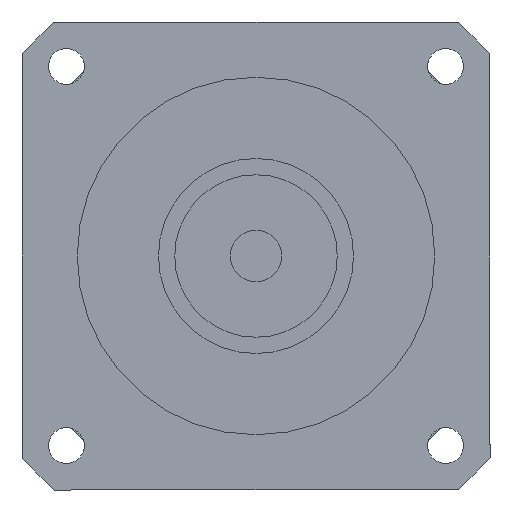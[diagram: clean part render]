
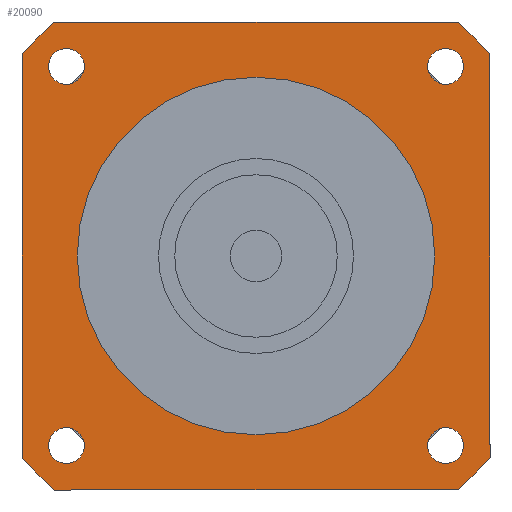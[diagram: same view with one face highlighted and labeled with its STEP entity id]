
A CAD part, left-side view. The second image highlights one B-rep face of the part: STEP entity #20090.
In plain terms, the highlighted planar face has unit normal (-1, 0, 0) as drawn and (0, 0, -1) by its records, which use the part's own axes.
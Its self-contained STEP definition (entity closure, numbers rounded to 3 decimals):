
#16050=CARTESIAN_POINT('',(72.,-61.976,-103.));
#16060=VERTEX_POINT('',#16050);
#16230=CARTESIAN_POINT('',(72.,61.976,-103.));
#16240=VERTEX_POINT('',#16230);
#16270=CARTESIAN_POINT('',(72.,-71.,-103.));
#16280=DIRECTION('',(0.,1.,0.));
#16290=VECTOR('',#16280,1000.);
#16300=LINE('',#16270,#16290);
#16310=EDGE_CURVE('',#16060,#16240,#16300,.T.);
#16450=CARTESIAN_POINT('',(61.976,-72.,-103.));
#16460=VERTEX_POINT('',#16450);
#16590=CARTESIAN_POINT('',(0.,0.,
-103.));
#16600=DIRECTION('',(0.,0.,1.));
#16610=DIRECTION('',(1.,0.,0.));
#16620=AXIS2_PLACEMENT_3D('',#16590,#16600,#16610);
#16630=CIRCLE('',#16620,95.);
#16640=EDGE_CURVE('',#16460,#16060,#16630,.T.);
#18460=CARTESIAN_POINT('',(-52.836,-58.336,-103.));
#18470=VERTEX_POINT('',#18460);
#18550=CARTESIAN_POINT('',(-63.836,-58.336,-103.));
#18560=VERTEX_POINT('',#18550);
#18590=CARTESIAN_POINT('',(-58.336,-58.336,-103.));
#18600=DIRECTION('',(0.,0.,-1.));
#18610=DIRECTION('',(0.,-1.,0.));
#18620=AXIS2_PLACEMENT_3D('',#18590,#18600,#18610);
#18630=CIRCLE('',#18620,5.5);
#18640=CARTESIAN_POINT('',(-58.336,-63.836,-103.));
#18650=VERTEX_POINT('',#18640);
#18660=EDGE_CURVE('',#18650,#18560,#18630,.T.);
#18680=EDGE_CURVE('',#18470,#18650,#18630,.T.);
#18730=CARTESIAN_POINT('',(-71.,71.,-103.));
#18740=DIRECTION('',(0.,0.,1.));
#18750=DIRECTION('',(-1.,0.,0.));
#18760=AXIS2_PLACEMENT_3D('',#18730,#18740,#18750);
#18770=PLANE('',#18760);
#18780=CARTESIAN_POINT('',(58.336,58.336,-103.));
#18790=DIRECTION('',(0.,0.,-1.));
#18800=DIRECTION('',(0.,1.,0.));
#18810=AXIS2_PLACEMENT_3D('',#18780,#18790,#18800);
#18820=CIRCLE('',#18810,5.5);
#18830=CARTESIAN_POINT('',(58.336,63.836,-103.));
#18840=VERTEX_POINT('',#18830);
#18850=CARTESIAN_POINT('',(63.836,58.336,-103.));
#18860=VERTEX_POINT('',#18850);
#18870=EDGE_CURVE('',#18840,#18860,#18820,.T.);
#18880=ORIENTED_EDGE('',*,*,#18870,.F.);
#18890=CARTESIAN_POINT('',(52.836,58.336,-103.));
#18900=VERTEX_POINT('',#18890);
#18910=EDGE_CURVE('',#18860,#18900,#18820,.T.);
#18920=ORIENTED_EDGE('',*,*,#18910,.F.);
#18930=EDGE_CURVE('',#18900,#18840,#18820,.T.);
#18940=ORIENTED_EDGE('',*,*,#18930,.F.);
#18950=EDGE_LOOP('',(#18940,#18920,#18880));
#18960=FACE_BOUND('',#18950,.T.);
#18970=CARTESIAN_POINT('',(-58.336,58.336,-103.));
#18980=DIRECTION('',(0.,0.,-1.));
#18990=DIRECTION('',(-1.,0.,0.));
#19000=AXIS2_PLACEMENT_3D('',#18970,#18980,#18990);
#19010=CIRCLE('',#19000,5.5);
#19020=CARTESIAN_POINT('',(-63.836,58.336,-103.));
#19030=VERTEX_POINT('',#19020);
#19040=CARTESIAN_POINT('',(-58.336,63.836,-103.));
#19050=VERTEX_POINT('',#19040);
#19060=EDGE_CURVE('',#19030,#19050,#19010,.T.);
#19070=ORIENTED_EDGE('',*,*,#19060,.F.);
#19080=CARTESIAN_POINT('',(-58.336,52.836,-103.));
#19090=VERTEX_POINT('',#19080);
#19100=EDGE_CURVE('',#19050,#19090,#19010,.T.);
#19110=ORIENTED_EDGE('',*,*,#19100,.F.);
#19120=EDGE_CURVE('',#19090,#19030,#19010,.T.);
#19130=ORIENTED_EDGE('',*,*,#19120,.F.);
#19140=EDGE_LOOP('',(#19130,#19110,#19070));
#19150=FACE_BOUND('',#19140,.T.);
#19160=ORIENTED_EDGE('',*,*,#18660,.F.);
#19170=EDGE_CURVE('',#18560,#18470,#18630,.T.);
#19180=ORIENTED_EDGE('',*,*,#19170,.F.);
#19190=ORIENTED_EDGE('',*,*,#18680,.F.);
#19200=EDGE_LOOP('',(#19190,#19180,#19160));
#19210=FACE_BOUND('',#19200,.T.);
#19220=CARTESIAN_POINT('',(0.,0.,
-103.));
#19230=DIRECTION('',(0.,0.,1.));
#19240=DIRECTION('',(1.,0.,0.));
#19250=AXIS2_PLACEMENT_3D('',#19220,#19230,#19240);
#19260=CIRCLE('',#19250,55.);
#19270=CARTESIAN_POINT('',(55.,0.,-103.));
#19280=VERTEX_POINT('',#19270);
#19290=CARTESIAN_POINT('',(-55.,0.,-103.));
#19300=VERTEX_POINT('',#19290);
#19310=EDGE_CURVE('',#19280,#19300,#19260,.T.);
#19320=ORIENTED_EDGE('',*,*,#19310,.T.);
#19330=EDGE_CURVE('',#19300,#19280,#19260,.T.);
#19340=ORIENTED_EDGE('',*,*,#19330,.T.);
#19350=EDGE_LOOP('',(#19340,#19320));
#19360=FACE_BOUND('',#19350,.T.);
#19370=CARTESIAN_POINT('',(58.336,-58.336,-103.));
#19380=DIRECTION('',(0.,0.,-1.));
#19390=DIRECTION('',(1.,0.,0.));
#19400=AXIS2_PLACEMENT_3D('',#19370,#19380,#19390);
#19410=CIRCLE('',#19400,5.5);
#19420=CARTESIAN_POINT('',(63.836,-58.336,-103.));
#19430=VERTEX_POINT('',#19420);
#19440=CARTESIAN_POINT('',(58.336,-63.836,-103.));
#19450=VERTEX_POINT('',#19440);
#19460=EDGE_CURVE('',#19430,#19450,#19410,.T.);
#19470=ORIENTED_EDGE('',*,*,#19460,.F.);
#19480=CARTESIAN_POINT('',(58.336,-52.836,-103.));
#19490=VERTEX_POINT('',#19480);
#19500=EDGE_CURVE('',#19450,#19490,#19410,.T.);
#19510=ORIENTED_EDGE('',*,*,#19500,.F.);
#19520=EDGE_CURVE('',#19490,#19430,#19410,.T.);
#19530=ORIENTED_EDGE('',*,*,#19520,.F.);
#19540=EDGE_LOOP('',(#19530,#19510,#19470));
#19550=FACE_BOUND('',#19540,.T.);
#19560=CARTESIAN_POINT('',(0.,0.,
-103.));
#19570=DIRECTION('',(0.,0.,1.));
#19580=DIRECTION('',(1.,0.,0.));
#19590=AXIS2_PLACEMENT_3D('',#19560,#19570,#19580);
#19600=CIRCLE('',#19590,95.);
#19610=CARTESIAN_POINT('',(-72.,-61.976,-103.));
#19620=VERTEX_POINT('',#19610);
#19630=CARTESIAN_POINT('',(-61.976,-72.,-103.));
#19640=VERTEX_POINT('',#19630);
#19650=EDGE_CURVE('',#19620,#19640,#19600,.T.);
#19660=ORIENTED_EDGE('',*,*,#19650,.F.);
#19670=CARTESIAN_POINT('',(-71.,-72.,-103.));
#19680=DIRECTION('',(1.,0.,0.));
#19690=VECTOR('',#19680,1000.);
#19700=LINE('',#19670,#19690);
#19710=EDGE_CURVE('',#19640,#16460,#19700,.T.);
#19720=ORIENTED_EDGE('',*,*,#19710,.F.);
#19730=ORIENTED_EDGE('',*,*,#16640,.F.);
#19740=ORIENTED_EDGE('',*,*,#16310,.F.);
#19750=CARTESIAN_POINT('',(0.,0.,
-103.));
#19760=DIRECTION('',(0.,0.,1.));
#19770=DIRECTION('',(1.,0.,0.));
#19780=AXIS2_PLACEMENT_3D('',#19750,#19760,#19770);
#19790=CIRCLE('',#19780,95.);
#19800=CARTESIAN_POINT('',(61.976,72.,-103.));
#19810=VERTEX_POINT('',#19800);
#19820=EDGE_CURVE('',#16240,#19810,#19790,.T.);
#19830=ORIENTED_EDGE('',*,*,#19820,.F.);
#19840=CARTESIAN_POINT('',(71.,72.,-103.));
#19850=DIRECTION('',(-1.,0.,0.));
#19860=VECTOR('',#19850,1000.);
#19870=LINE('',#19840,#19860);
#19880=CARTESIAN_POINT('',(-61.976,72.,-103.));
#19890=VERTEX_POINT('',#19880);
#19900=EDGE_CURVE('',#19810,#19890,#19870,.T.);
#19910=ORIENTED_EDGE('',*,*,#19900,.F.);
#19920=CARTESIAN_POINT('',(0.,0.,
-103.));
#19930=DIRECTION('',(0.,0.,1.));
#19940=DIRECTION('',(1.,0.,0.));
#19950=AXIS2_PLACEMENT_3D('',#19920,#19930,#19940);
#19960=CIRCLE('',#19950,95.);
#19970=CARTESIAN_POINT('',(-72.,61.976,-103.));
#19980=VERTEX_POINT('',#19970);
#19990=EDGE_CURVE('',#19890,#19980,#19960,.T.);
#20000=ORIENTED_EDGE('',*,*,#19990,.F.);
#20010=CARTESIAN_POINT('',(-72.,71.,-103.));
#20020=DIRECTION('',(0.,-1.,0.));
#20030=VECTOR('',#20020,1000.);
#20040=LINE('',#20010,#20030);
#20050=EDGE_CURVE('',#19980,#19620,#20040,.T.);
#20060=ORIENTED_EDGE('',*,*,#20050,.F.);
#20070=EDGE_LOOP('',(#20060,#20000,#19910,#19830,#19740,#19730,#19720,
#19660));
#20080=FACE_OUTER_BOUND('',#20070,.T.);
#20090=ADVANCED_FACE('',(#18960,#19150,#19210,#19360,#19550,#20080),
#18770,.F.);
